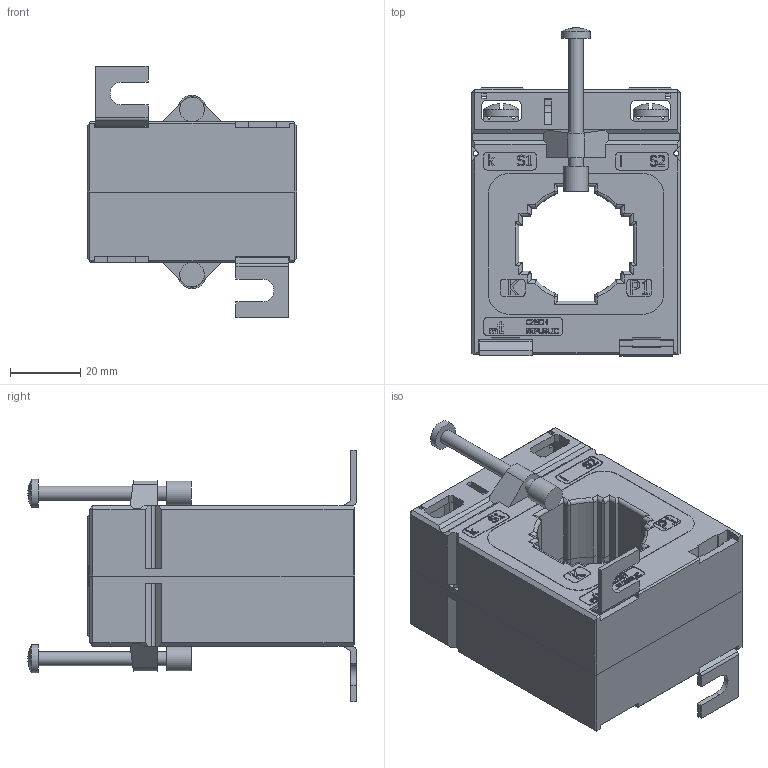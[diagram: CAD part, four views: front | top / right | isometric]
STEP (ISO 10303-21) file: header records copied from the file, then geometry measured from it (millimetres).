
FILE_DESCRIPTION(/* description */ (''),/* implementation_level */ '2;1');
FILE_NAME(/* name */ 'CLB 32.64.step',/* time_stamp */ '2024-10-11T20:59:23+02:00',/* author */ ('peter'),/* organization */ (''),/* preprocessor_version */ 'ST-DEVELOPER v20',/* originating_system */ 'Autodesk Inventor 2025',/* authorisation */ '');
FILE_SCHEMA (('AUTOMOTIVE_DESIGN { 1 0 10303 214 3 1 1 }'));
Length unit declared in the file: millimetre
Products named in the file (10): Current transformer CLB 32.64; Front plastic case CLB 32.64; Back plastic case CLB 32.64; Tape label CLB 32.64; Secondary terminal 28 CLB; Secondary terminal cover 37 CLB; Metal mounting foot CLB; Screw M5x8; Screw 4x60; Insulating cap
Assembly tree (17 placements, depth 2):
  Current transformer CLB 32.64
    Front plastic case CLB 32.64
    Back plastic case CLB 32.64
    Tape label CLB 32.64
    Secondary terminal 28 CLB  x2
    Secondary terminal cover 37 CLB  x2
    Metal mounting foot CLB  x2
    Screw M5x8  x4
    Screw 4x60  x2
    Insulating cap  x2
Bounding box: 59.5 x 93.34 x 71.5 mm (x, y, z)
Volume: 139729.5 mm3; surface area: 46308.1 mm2
Topology: 17 solids, 17 shells, 1785 faces, 4859 edges, 3188 vertices
Faces by surface type: plane 1118, bspline 395, cylinder 224, sphere 18, torus 16, cone 14
Full cylindrical faces by diameter (mm): 1.5 x4, 2.5 x2, 2.95 x2, 3 x4, 3.5 x2, 4 x4, 4.134 x4, 5 x4, 7 x2, 8 x2, 10 x4
Entity records: 53133 total; most frequent: CARTESIAN_POINT 14335, ORIENTED_EDGE 8760, DIRECTION 6386, EDGE_CURVE 4380, LINE 3182, VECTOR 3182, VERTEX_POINT 2877, EDGE_LOOP 1723
